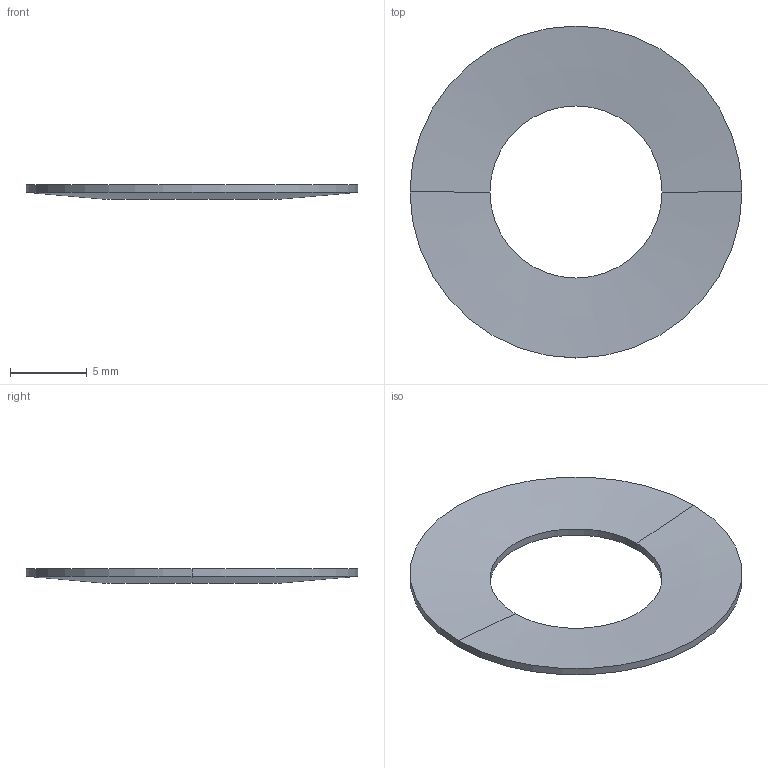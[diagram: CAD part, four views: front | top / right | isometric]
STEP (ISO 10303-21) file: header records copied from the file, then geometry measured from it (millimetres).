
FILE_DESCRIPTION(('BendCAD export'),'2;1');
FILE_NAME('bendcad.step','',('BendCAD'),('BendCAD'),'BendCAD','BendCAD','');
FILE_SCHEMA(('AUTOMOTIVE_DESIGN'));
Length unit declared in the file: millimetre
Products named in the file (1): BENDCAD
Bounding box: 21.6 x 21.6 x 0.95 mm (x, y, z)
Volume: 134 mm3; surface area: 589.4 mm2
Topology: 1 solids, 1 shells, 8 faces, 16 edges, 8 vertices
Faces by surface type: cone 4, cylinder 4
Entity records: 226 total; most frequent: CARTESIAN_POINT 41, DIRECTION 38, ORIENTED_EDGE 32, AXIS2_PLACEMENT_3D 17, EDGE_CURVE 16, CIRCLE 8, TRIMMED_CURVE 8, VERTEX_POINT 8
